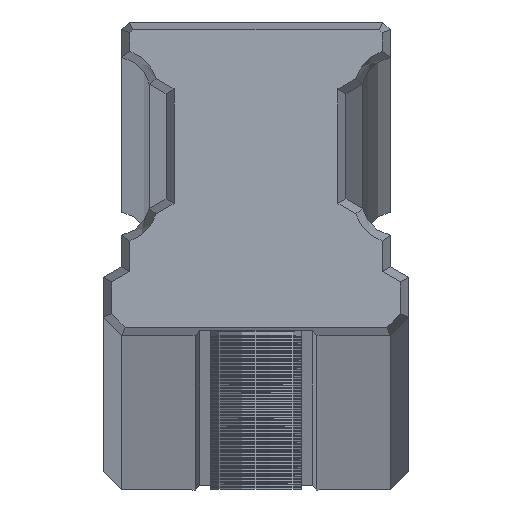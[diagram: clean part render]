
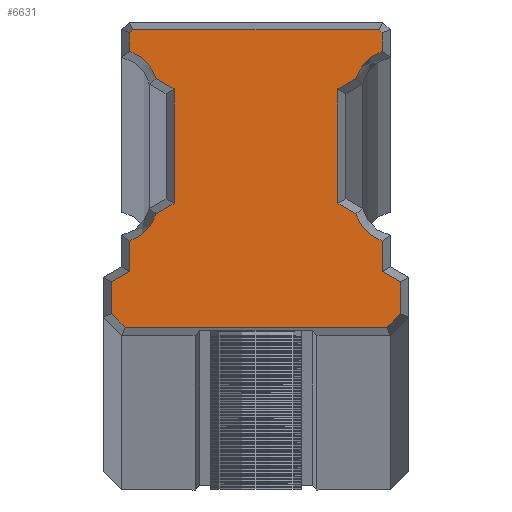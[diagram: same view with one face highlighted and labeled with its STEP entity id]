
A CAD part, top view. The second image highlights one B-rep face of the part: STEP entity #6631.
In plain terms, the highlighted planar face has unit normal (0, 0, 1).
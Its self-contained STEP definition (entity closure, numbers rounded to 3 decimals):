
#909=DIRECTION('',(1.,0.,0.));
#910=VECTOR('',#909,17.162);
#911=CARTESIAN_POINT('',(-8.581,0.529,0.));
#912=LINE('',#911,#910);
#913=DIRECTION('',(0.707,-0.707,0.));
#914=VECTOR('',#913,1.259);
#915=CARTESIAN_POINT('',(-9.471,1.419,0.));
#916=LINE('',#915,#914);
#917=DIRECTION('',(0.,-1.,0.));
#918=VECTOR('',#917,2.083);
#919=CARTESIAN_POINT('',(-9.471,3.502,0.));
#920=LINE('',#919,#918);
#921=DIRECTION('',(-0.866,-0.5,0.));
#922=VECTOR('',#921,1.386);
#923=CARTESIAN_POINT('',(-8.271,4.195,0.));
#924=LINE('',#923,#922);
#925=DIRECTION('',(0.,-1.,0.));
#926=VECTOR('',#925,1.98);
#927=CARTESIAN_POINT('',(-8.271,6.175,0.));
#928=LINE('',#927,#926);
#929=CARTESIAN_POINT('',(-9.242,8.843,0.));
#930=DIRECTION('',(0.,0.,-1.));
#931=DIRECTION('',(0.952,-0.308,0.));
#932=AXIS2_PLACEMENT_3D('',#929,#930,#931);
#934=DIRECTION('',(-0.866,-0.5,0.));
#935=VECTOR('',#934,1.351);
#936=CARTESIAN_POINT('',(-5.371,8.645,0.));
#937=LINE('',#936,#935);
#938=DIRECTION('',(0.,-1.,0.));
#939=VECTOR('',#938,7.511);
#940=CARTESIAN_POINT('',(-5.371,16.155,0.));
#941=LINE('',#940,#939);
#942=DIRECTION('',(0.866,-0.5,0.));
#943=VECTOR('',#942,1.351);
#944=CARTESIAN_POINT('',(-6.541,16.831,0.));
#945=LINE('',#944,#943);
#946=CARTESIAN_POINT('',(-9.242,15.958,0.));
#947=DIRECTION('',(0.,0.,-1.));
#948=DIRECTION('',(0.342,0.94,0.));
#949=AXIS2_PLACEMENT_3D('',#946,#947,#948);
#951=DIRECTION('',(0.,-1.,0.));
#952=VECTOR('',#951,1.211);
#953=CARTESIAN_POINT('',(-8.271,19.836,0.));
#954=LINE('',#953,#952);
#955=DIRECTION('',(-0.707,-0.707,0.));
#956=VECTOR('',#955,0.262);
#957=CARTESIAN_POINT('',(-8.086,20.021,0.));
#958=LINE('',#957,#956);
#959=DIRECTION('',(-1.,0.,0.));
#960=VECTOR('',#959,16.172);
#961=CARTESIAN_POINT('',(8.086,20.021,0.));
#962=LINE('',#961,#960);
#963=DIRECTION('',(-0.707,0.707,0.));
#964=VECTOR('',#963,0.262);
#965=CARTESIAN_POINT('',(8.271,19.836,0.));
#966=LINE('',#965,#964);
#967=DIRECTION('',(0.,1.,0.));
#968=VECTOR('',#967,1.211);
#969=CARTESIAN_POINT('',(8.271,18.625,0.));
#970=LINE('',#969,#968);
#971=CARTESIAN_POINT('',(9.242,15.958,0.));
#972=DIRECTION('',(0.,0.,-1.));
#973=DIRECTION('',(-0.952,0.308,0.));
#974=AXIS2_PLACEMENT_3D('',#971,#972,#973);
#976=DIRECTION('',(0.866,0.5,0.));
#977=VECTOR('',#976,1.351);
#978=CARTESIAN_POINT('',(5.371,16.155,0.));
#979=LINE('',#978,#977);
#980=DIRECTION('',(0.,1.,0.));
#981=VECTOR('',#980,7.511);
#982=CARTESIAN_POINT('',(5.371,8.645,0.));
#983=LINE('',#982,#981);
#984=DIRECTION('',(-0.866,0.5,0.));
#985=VECTOR('',#984,1.351);
#986=CARTESIAN_POINT('',(6.541,7.969,0.));
#987=LINE('',#986,#985);
#988=CARTESIAN_POINT('',(9.242,8.843,0.));
#989=DIRECTION('',(0.,0.,-1.));
#990=DIRECTION('',(-0.342,-0.94,0.));
#991=AXIS2_PLACEMENT_3D('',#988,#989,#990);
#993=DIRECTION('',(0.,1.,0.));
#994=VECTOR('',#993,1.98);
#995=CARTESIAN_POINT('',(8.271,4.195,0.));
#996=LINE('',#995,#994);
#997=DIRECTION('',(-0.866,0.5,0.));
#998=VECTOR('',#997,1.386);
#999=CARTESIAN_POINT('',(9.471,3.502,0.));
#1000=LINE('',#999,#998);
#1001=DIRECTION('',(0.,1.,0.));
#1002=VECTOR('',#1001,2.083);
#1003=CARTESIAN_POINT('',(9.471,1.419,0.));
#1004=LINE('',#1003,#1002);
#1005=DIRECTION('',(0.707,0.707,0.));
#1006=VECTOR('',#1005,1.259);
#1007=CARTESIAN_POINT('',(8.581,0.529,0.));
#1008=LINE('',#1007,#1006);
#4725=CARTESIAN_POINT('',(-8.581,0.529,0.));
#4726=CARTESIAN_POINT('',(8.581,0.529,0.));
#4727=VERTEX_POINT('',#4725);
#4728=VERTEX_POINT('',#4726);
#4729=CARTESIAN_POINT('',(9.471,1.419,0.));
#4730=VERTEX_POINT('',#4729);
#4731=CARTESIAN_POINT('',(9.471,3.502,0.));
#4732=VERTEX_POINT('',#4731);
#4733=CARTESIAN_POINT('',(8.271,4.195,0.));
#4734=VERTEX_POINT('',#4733);
#4735=CARTESIAN_POINT('',(8.271,6.175,0.));
#4736=VERTEX_POINT('',#4735);
#4737=CARTESIAN_POINT('',(6.541,7.969,0.));
#4738=VERTEX_POINT('',#4737);
#4739=CARTESIAN_POINT('',(5.371,8.645,0.));
#4740=VERTEX_POINT('',#4739);
#4741=CARTESIAN_POINT('',(5.371,16.155,0.));
#4742=VERTEX_POINT('',#4741);
#4743=CARTESIAN_POINT('',(6.541,16.831,0.));
#4744=VERTEX_POINT('',#4743);
#4745=CARTESIAN_POINT('',(8.271,18.625,0.));
#4746=VERTEX_POINT('',#4745);
#4747=CARTESIAN_POINT('',(8.271,19.836,0.));
#4748=VERTEX_POINT('',#4747);
#4749=CARTESIAN_POINT('',(8.086,20.021,0.));
#4750=VERTEX_POINT('',#4749);
#4751=CARTESIAN_POINT('',(-8.086,20.021,0.));
#4752=VERTEX_POINT('',#4751);
#4753=CARTESIAN_POINT('',(-8.271,19.836,0.));
#4754=VERTEX_POINT('',#4753);
#4755=CARTESIAN_POINT('',(-8.271,18.625,0.));
#4756=VERTEX_POINT('',#4755);
#4757=CARTESIAN_POINT('',(-6.541,16.831,0.));
#4758=VERTEX_POINT('',#4757);
#4759=CARTESIAN_POINT('',(-5.371,16.155,0.));
#4760=VERTEX_POINT('',#4759);
#4761=CARTESIAN_POINT('',(-5.371,8.645,0.));
#4762=VERTEX_POINT('',#4761);
#4763=CARTESIAN_POINT('',(-6.541,7.969,0.));
#4764=VERTEX_POINT('',#4763);
#4765=CARTESIAN_POINT('',(-8.271,6.175,0.));
#4766=VERTEX_POINT('',#4765);
#4767=CARTESIAN_POINT('',(-8.271,4.195,0.));
#4768=VERTEX_POINT('',#4767);
#4769=CARTESIAN_POINT('',(-9.471,3.502,0.));
#4770=VERTEX_POINT('',#4769);
#4771=CARTESIAN_POINT('',(-9.471,1.419,0.));
#4772=VERTEX_POINT('',#4771);
#6577=CARTESIAN_POINT('',(0.,0.,0.));
#6578=DIRECTION('',(0.,0.,1.));
#6579=DIRECTION('',(1.,0.,0.));
#6580=AXIS2_PLACEMENT_3D('',#6577,#6578,#6579);
#6581=PLANE('',#6580);
#6583=ORIENTED_EDGE('',*,*,#6582,.F.);
#6585=ORIENTED_EDGE('',*,*,#6584,.F.);
#6587=ORIENTED_EDGE('',*,*,#6586,.F.);
#6589=ORIENTED_EDGE('',*,*,#6588,.F.);
#6591=ORIENTED_EDGE('',*,*,#6590,.F.);
#6593=ORIENTED_EDGE('',*,*,#6592,.F.);
#6595=ORIENTED_EDGE('',*,*,#6594,.F.);
#6597=ORIENTED_EDGE('',*,*,#6596,.F.);
#6599=ORIENTED_EDGE('',*,*,#6598,.F.);
#6601=ORIENTED_EDGE('',*,*,#6600,.F.);
#6602=ORIENTED_EDGE('',*,*,#6567,.F.);
#6604=ORIENTED_EDGE('',*,*,#6603,.F.);
#6606=ORIENTED_EDGE('',*,*,#6605,.F.);
#6608=ORIENTED_EDGE('',*,*,#6607,.F.);
#6610=ORIENTED_EDGE('',*,*,#6609,.F.);
#6612=ORIENTED_EDGE('',*,*,#6611,.F.);
#6614=ORIENTED_EDGE('',*,*,#6613,.F.);
#6616=ORIENTED_EDGE('',*,*,#6615,.F.);
#6618=ORIENTED_EDGE('',*,*,#6617,.F.);
#6620=ORIENTED_EDGE('',*,*,#6619,.F.);
#6622=ORIENTED_EDGE('',*,*,#6621,.F.);
#6624=ORIENTED_EDGE('',*,*,#6623,.F.);
#6626=ORIENTED_EDGE('',*,*,#6625,.F.);
#6628=ORIENTED_EDGE('',*,*,#6627,.F.);
#6629=EDGE_LOOP('',(#6583,#6585,#6587,#6589,#6591,#6593,#6595,#6597,#6599,#6601,
#6602,#6604,#6606,#6608,#6610,#6612,#6614,#6616,#6618,#6620,#6622,#6624,#6626,
#6628));
#6630=FACE_OUTER_BOUND('',#6629,.F.);
#933=CIRCLE('',#932,2.839);
#950=CIRCLE('',#949,2.839);
#975=CIRCLE('',#974,2.839);
#992=CIRCLE('',#991,2.839);
#6567=EDGE_CURVE('',#4754,#4756,#954,.T.);
#6582=EDGE_CURVE('',#4727,#4728,#912,.T.);
#6584=EDGE_CURVE('',#4772,#4727,#916,.T.);
#6586=EDGE_CURVE('',#4770,#4772,#920,.T.);
#6588=EDGE_CURVE('',#4768,#4770,#924,.T.);
#6590=EDGE_CURVE('',#4766,#4768,#928,.T.);
#6592=EDGE_CURVE('',#4764,#4766,#933,.T.);
#6594=EDGE_CURVE('',#4762,#4764,#937,.T.);
#6596=EDGE_CURVE('',#4760,#4762,#941,.T.);
#6598=EDGE_CURVE('',#4758,#4760,#945,.T.);
#6600=EDGE_CURVE('',#4756,#4758,#950,.T.);
#6603=EDGE_CURVE('',#4752,#4754,#958,.T.);
#6605=EDGE_CURVE('',#4750,#4752,#962,.T.);
#6607=EDGE_CURVE('',#4748,#4750,#966,.T.);
#6609=EDGE_CURVE('',#4746,#4748,#970,.T.);
#6611=EDGE_CURVE('',#4744,#4746,#975,.T.);
#6613=EDGE_CURVE('',#4742,#4744,#979,.T.);
#6615=EDGE_CURVE('',#4740,#4742,#983,.T.);
#6617=EDGE_CURVE('',#4738,#4740,#987,.T.);
#6619=EDGE_CURVE('',#4736,#4738,#992,.T.);
#6621=EDGE_CURVE('',#4734,#4736,#996,.T.);
#6623=EDGE_CURVE('',#4732,#4734,#1000,.T.);
#6625=EDGE_CURVE('',#4730,#4732,#1004,.T.);
#6627=EDGE_CURVE('',#4728,#4730,#1008,.T.);
#6631=ADVANCED_FACE('',(#6630),#6581,.T.);
